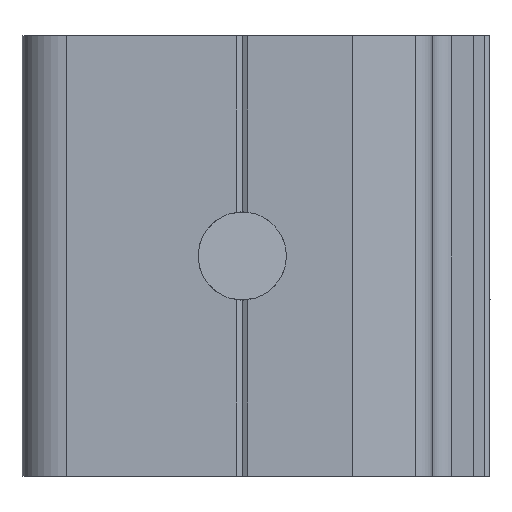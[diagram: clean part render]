
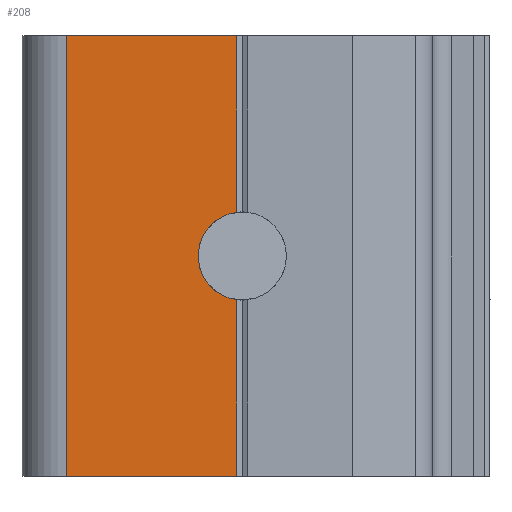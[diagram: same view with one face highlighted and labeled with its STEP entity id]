
A CAD part, front view. The second image highlights one B-rep face of the part: STEP entity #208.
In plain terms, the highlighted planar face has unit normal (0, -1, 0).
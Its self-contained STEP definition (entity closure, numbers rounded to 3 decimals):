
#114=CARTESIAN_POINT('',(-167.594,-218.607,23.966));
#115=VERTEX_POINT('',#114);
#123=CARTESIAN_POINT('',(-167.594,-218.607,16.034));
#124=VERTEX_POINT('',#123);
#125=CARTESIAN_POINT('',(-167.074,-218.607,20.0));
#126=DIRECTION('',(0.0,1.0,0.0));
#127=DIRECTION('',(-1.0,0.0,0.0));
#128=AXIS2_PLACEMENT_3D('',#125,#126,#127);
#129=CIRCLE('',#128,4.0);
#130=EDGE_CURVE('',#124,#115,#129,.T.);
#162=CARTESIAN_POINT('',(-171.074,-218.607,0.0));
#163=DIRECTION('',(0.0,-1.0,0.0));
#164=DIRECTION('',(0.0,0.0,-1.0));
#165=AXIS2_PLACEMENT_3D('',#162,#163,#164);
#166=PLANE('',#165);
#167=ORIENTED_EDGE('',*,*,#130,.T.);
#168=CARTESIAN_POINT('',(-167.594,-218.607,40.0));
#169=VERTEX_POINT('',#168);
#170=CARTESIAN_POINT('',(-167.594,-218.607,23.966));
#171=DIRECTION('',(0.0,0.0,1.0));
#172=VECTOR('',#171,16.034);
#173=LINE('',#170,#172);
#174=EDGE_CURVE('',#115,#169,#173,.T.);
#175=ORIENTED_EDGE('',*,*,#174,.T.);
#176=CARTESIAN_POINT('',(-183.074,-218.607,40.0));
#177=VERTEX_POINT('',#176);
#178=CARTESIAN_POINT('',(-167.594,-218.607,40.0));
#179=DIRECTION('',(-1.0,0.0,0.0));
#180=VECTOR('',#179,15.48);
#181=LINE('',#178,#180);
#182=EDGE_CURVE('',#169,#177,#181,.T.);
#183=ORIENTED_EDGE('',*,*,#182,.T.);
#184=CARTESIAN_POINT('',(-183.074,-218.607,0.0));
#185=VERTEX_POINT('',#184);
#186=CARTESIAN_POINT('',(-183.074,-218.607,0.0));
#187=DIRECTION('',(0.0,0.0,1.0));
#188=VECTOR('',#187,40.0);
#189=LINE('',#186,#188);
#190=EDGE_CURVE('',#185,#177,#189,.T.);
#191=ORIENTED_EDGE('',*,*,#190,.F.);
#192=CARTESIAN_POINT('',(-167.594,-218.607,0.0));
#193=VERTEX_POINT('',#192);
#194=CARTESIAN_POINT('',(-167.594,-218.607,0.0));
#195=DIRECTION('',(-1.0,0.0,0.0));
#196=VECTOR('',#195,15.48);
#197=LINE('',#194,#196);
#198=EDGE_CURVE('',#193,#185,#197,.T.);
#199=ORIENTED_EDGE('',*,*,#198,.F.);
#200=CARTESIAN_POINT('',(-167.594,-218.607,0.0));
#201=DIRECTION('',(0.0,0.0,1.0));
#202=VECTOR('',#201,16.034);
#203=LINE('',#200,#202);
#204=EDGE_CURVE('',#193,#124,#203,.T.);
#205=ORIENTED_EDGE('',*,*,#204,.T.);
#206=EDGE_LOOP('',(#167,#175,#183,#191,#199,#205));
#207=FACE_OUTER_BOUND('',#206,.T.);
#208=ADVANCED_FACE('',(#207),#166,.T.);
